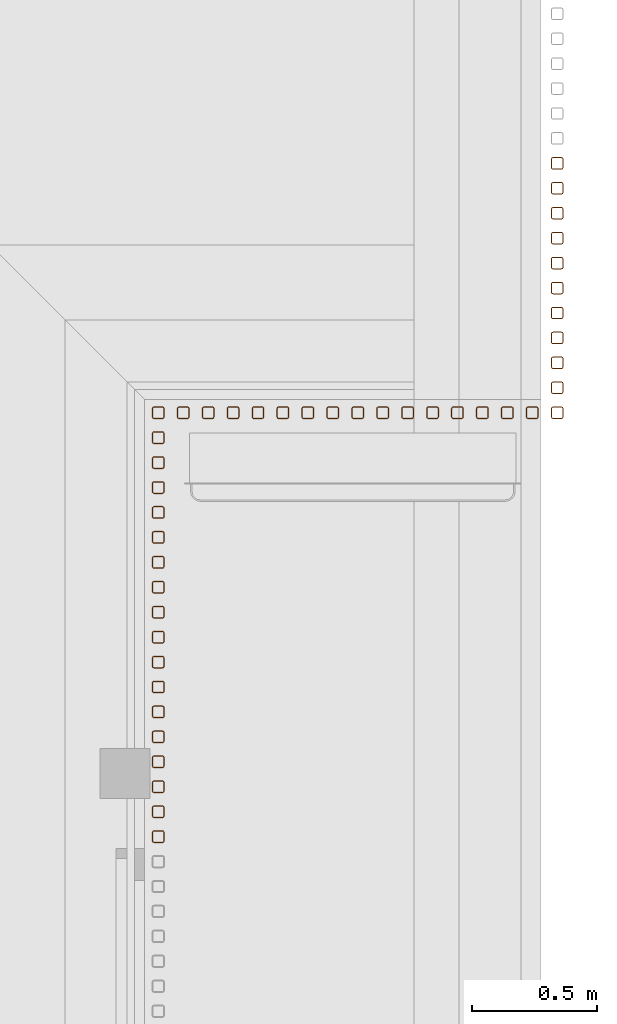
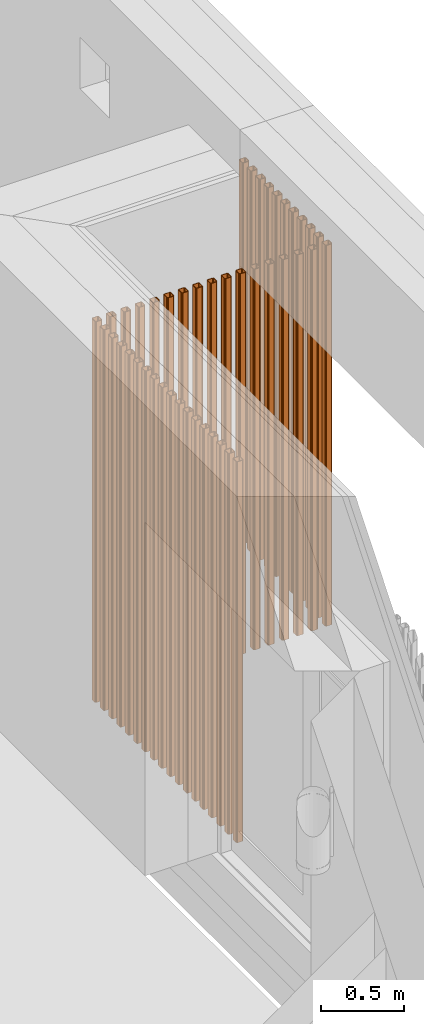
# One storey, part 69 of 112: 44 proxies.
"""IFC2X3 building model written with IfcOpenShell, lengths in millimetres."""

import ifcopenshell
import ifcopenshell.guid

model = None  # the IFC model being written
_history = None  # IfcOwnerHistory: only IFC2X3 demands one
_inside = {}  # id of a spatial element -> (the spatial element, [elements in it])
_under = {}  # id of a project, library or spatial element -> (it, [spatial elements below it])
_declared = {}  # id of a project -> (the project, [libraries it declares])
_typed = {}  # id of a type object -> (the type object, [elements of that type])
_made_of = {}  # id of a material, layer set ... -> (it, [elements and type objects made of it])


def new_model(schema):
    """Start an empty IFC model of exactly this schema.

    Asked for "IFC4X3", IfcOpenShell would pick the latest addendum, in which some entities
    have other attributes; the version numbers below select the first issue.
    IFC2X3 requires an IfcOwnerHistory on every rooted entity: one is made here for all.
    """
    global model, _history
    if schema == "IFC4X3":
        model = ifcopenshell.file(schema_version=(4, 3, 0, 0))
    else:
        model = ifcopenshell.file(schema=schema)
    _inside.clear()
    _under.clear()
    _declared.clear()
    _typed.clear()
    _made_of.clear()
    _history = None
    if model.schema == "IFC2X3":
        org = make("IfcOrganization", Name="unknown")
        user = make(
            "IfcPersonAndOrganization",
            ThePerson=make("IfcPerson", FamilyName="unknown"),
            TheOrganization=org,
        )
        app = make(
            "IfcApplication",
            ApplicationDeveloper=org,
            Version="unknown",
            ApplicationFullName="unknown",
            ApplicationIdentifier="unknown",
        )
        _history = make(
            "IfcOwnerHistory",
            OwningUser=user,
            OwningApplication=app,
            ChangeAction="ADDED",
            CreationDate=0,
        )
    return model


def make(cls, **values):
    """One entity of the class cls with the attributes given. An attribute that is None is left unset."""
    return model.create_entity(
        cls, **{name: value for name, value in values.items() if value is not None}
    )


def entity(cls, *values):
    """Any entity or typed value of the class cls, its attributes in the order of the schema. None: left unset."""
    e = model.create_entity(cls)
    for i, value in enumerate(values):
        if value is not None:
            e[i] = value
    return e


def rooted(cls, **values):
    """An entity with a GlobalId (a new one), such as an element, a storey or a relation."""
    return make(cls, GlobalId=ifcopenshell.guid.new(), OwnerHistory=_history, **values)


def si_unit(unit_type, name, prefix=None):
    """IfcSIUnit, for example si_unit("LENGTHUNIT", "METRE", prefix="MILLI")."""
    return make("IfcSIUnit", UnitType=unit_type, Prefix=prefix, Name=name)


def converted_unit(unit_type, name, factor, base, dimensions=None, offset=None):
    """IfcConversionBasedUnit, such as the inch: factor (a typed value) times the base unit."""
    return make(
        "IfcConversionBasedUnit"
        if offset is None
        else "IfcConversionBasedUnitWithOffset",
        ConversionOffset=offset,
        Dimensions=None
        if dimensions is None
        else entity("IfcDimensionalExponents", *dimensions),
        UnitType=unit_type,
        Name=name,
        ConversionFactor=make(
            "IfcMeasureWithUnit", ValueComponent=factor, UnitComponent=base
        ),
    )


def derived_unit(unit_type, elements):
    """IfcDerivedUnit: a product of units, each with its exponent."""
    return make(
        "IfcDerivedUnit",
        Elements=[
            make("IfcDerivedUnitElement", Unit=unit, Exponent=power)
            for unit, power in elements
        ],
        UnitType=unit_type,
    )


def money_unit(currency):
    """IfcMonetaryUnit."""
    return make("IfcMonetaryUnit", Currency=currency)


def assignment(units):
    """IfcUnitAssignment: the units of a project."""
    return None if units is None else make("IfcUnitAssignment", Units=units)


def point(xyz):
    """IfcCartesianPoint."""
    return None if xyz is None else make("IfcCartesianPoint", Coordinates=xyz)


def direction(xyz):
    """IfcDirection."""
    return None if xyz is None else make("IfcDirection", DirectionRatios=xyz)


def frame(location, z_axis=None, x_axis=None):
    """IfcAxis2Placement3D, a coordinate frame: its origin and axes. An axis left out is left unset."""
    return make(
        "IfcAxis2Placement3D",
        Location=point(location),
        Axis=direction(z_axis),
        RefDirection=direction(x_axis),
    )


def origin_with_axes():
    """The frame at (0, 0, 0) with the z axis (0, 0, 1) and the x axis (1, 0, 0) written out."""
    return frame((0.0, 0.0, 0.0), z_axis=(0.0, 0.0, 1.0), x_axis=(1.0, 0.0, 0.0))


def place(relative_to, where):
    """IfcLocalPlacement: puts the frame where relative to a parent placement (None: the world)."""
    return make(
        "IfcLocalPlacement", PlacementRelTo=relative_to, RelativePlacement=where
    )


def context(
    kind, dimensions, precision=None, world=None, true_north=None, identifier=None
):
    """IfcGeometricRepresentationContext, for example the 3D "Model" context."""
    return make(
        "IfcGeometricRepresentationContext",
        ContextIdentifier=identifier,
        ContextType=kind,
        CoordinateSpaceDimension=dimensions,
        Precision=precision,
        WorldCoordinateSystem=world,
        TrueNorth=true_north,
    )


def subcontext(parent, identifier, kind, view, scale=None):
    """IfcGeometricRepresentationSubContext, for example "Body" below "Model"."""
    return make(
        "IfcGeometricRepresentationSubContext",
        ContextIdentifier=identifier,
        ContextType=kind,
        ParentContext=parent,
        TargetScale=scale,
        TargetView=view,
    )


def project(units=None, contexts=None):
    """IfcProject with its units and contexts."""
    return rooted(
        "IfcProject",
        Name="project",
        RepresentationContexts=contexts,
        UnitsInContext=assignment(units),
    )


def spatial(cls, under=None, at=None, **own):
    """A site, building, storey or space (cls), placed at a placement, below another one or the project."""
    s = rooted(cls, ObjectPlacement=at, **own)
    if under is not None:
        _under.setdefault(under.id(), (under, []))[1].append(s)
    return s


def faces_of(points, faces, orient=None, outer=None):
    """IfcFace entities. A face is a list of loops; a loop is a list of indices into points, from 0.

    orient and outer hold one flag for each loop. By default every Orientation is true, the
    first loop of a face is its IfcFaceOuterBound and the others are IfcFaceBound.
    """
    made = []
    for i, loops in enumerate(faces):
        bounds = []
        for j, loop in enumerate(loops):
            is_outer = j == 0 if outer is None else outer[i][j]
            bounds.append(
                make(
                    "IfcFaceOuterBound" if is_outer else "IfcFaceBound",
                    Bound=make("IfcPolyLoop", Polygon=[points[k] for k in loop]),
                    Orientation=True if orient is None else orient[i][j],
                )
            )
        made.append(make("IfcFace", Bounds=bounds))
    return made


def faceted_brep(points, faces, orient=None, outer=None, voids=None):
    """IfcFacetedBrep: a solid bounded by flat faces; with voids (closed shells), ...WithVoids."""
    shared = [point(p) for p in points]
    hull = make("IfcClosedShell", CfsFaces=faces_of(shared, faces, orient, outer))
    if voids is None:
        return make("IfcFacetedBrep", Outer=hull)
    return make(
        "IfcFacetedBrepWithVoids",
        Outer=hull,
        Voids=[
            make(cls, CfsFaces=faces_of(shared, fs, o, b)) for cls, fs, o, b in voids
        ],
    )


def shape(context_of_items, identifier, shape_type, items):
    """IfcShapeRepresentation: the items that make up one representation, for example the "Body"."""
    return make(
        "IfcShapeRepresentation",
        ContextOfItems=context_of_items,
        RepresentationIdentifier=identifier,
        RepresentationType=shape_type,
        Items=items,
    )


def source(mapping_origin, context_of_items, identifier, shape_type, items):
    """IfcRepresentationMap: a shape defined once, which mapped items show again and again."""
    return make(
        "IfcRepresentationMap",
        MappingOrigin=mapping_origin,
        MappedRepresentation=shape(context_of_items, identifier, shape_type, items),
    )


def transform(
    local_origin,
    x_axis=None,
    y_axis=None,
    z_axis=None,
    scale=None,
    scale2=None,
    scale3=None,
    uniform=True,
):
    """IfcCartesianTransformationOperator3D, or its non-uniform kind. x_axis, y_axis, z_axis: its Axis1, 2, 3."""
    if uniform:
        return make(
            "IfcCartesianTransformationOperator3D",
            Axis1=direction(x_axis),
            Axis2=direction(y_axis),
            LocalOrigin=point(local_origin),
            Scale=scale,
            Axis3=direction(z_axis),
        )
    return make(
        "IfcCartesianTransformationOperator3DnonUniform",
        Axis1=direction(x_axis),
        Axis2=direction(y_axis),
        LocalOrigin=point(local_origin),
        Scale=scale,
        Axis3=direction(z_axis),
        Scale2=scale2,
        Scale3=scale3,
    )


def mapped(mapping_source, mapping_target):
    """IfcMappedItem: shows the shape of a source again, moved by a transform."""
    return make(
        "IfcMappedItem", MappingSource=mapping_source, MappingTarget=mapping_target
    )


def material(Name=None, Category=None):
    """IfcMaterial."""
    return make("IfcMaterial", Name=Name, Category=Category)


def made_of(thing, what):
    """Note that an element or type object is made of a material, layer set ...; save() writes the relation."""
    if what is not None:
        _made_of.setdefault(what.id(), (what, []))[1].append(thing)
    return thing


def type_object(cls, material=None, **own):
    """A type object (cls), such as IfcWallType, which elements share."""
    return made_of(rooted(cls, **own), material)


def element(
    cls,
    number,
    at=None,
    inside=None,
    cuts=None,
    type_object=None,
    material=None,
    context=None,
    identifier="Body",
    shape_type=None,
    held_by="IfcProductDefinitionShape",
    body=None,
    shapes=None,
    **own,
):
    """One element of the class cls, such as IfcWall. Its Tag is "e" and its number.

    at: its placement. inside: the storey or other place that contains it. cuts: it is an
    opening in that element (IfcRelVoidsElement). A single representation is given by context,
    identifier, shape_type and body (its items); several are given by shapes. held_by: the class
    of the entity that holds the representations. save() writes the other relations.
    """
    e = rooted(cls, Tag="e%d" % number, ObjectPlacement=at, **own)
    if body is not None:
        shapes = [shape(context, identifier, shape_type, body)]
    if shapes is not None:
        e.Representation = make(held_by, Representations=shapes)
    if inside is not None:
        _inside.setdefault(inside.id(), (inside, []))[1].append(e)
    if cuts is not None:
        rooted(
            "IfcRelVoidsElement", RelatingBuildingElement=cuts, RelatedOpeningElement=e
        )
    if type_object is not None:
        _typed.setdefault(type_object.id(), (type_object, []))[1].append(e)
    return made_of(e, material)


def aggregate(whole, parts):
    """IfcRelAggregates: a whole, such as a stair, and the parts it consists of."""
    return rooted("IfcRelAggregates", RelatingObject=whole, RelatedObjects=parts)


def save(model, path):
    """Write the relations noted so far, then the file.

    IfcRelAggregates (storeys below a building ...), IfcRelContainedInSpatialStructure (elements
    in a storey), IfcRelDefinesByType, IfcRelAssociatesMaterial and IfcRelDeclares: one each for
    every whole, place, type object, material and project.
    """
    for whole, parts in _under.values():
        aggregate(whole, parts)
    for where, things in _inside.values():
        rooted(
            "IfcRelContainedInSpatialStructure",
            RelatedElements=things,
            RelatingStructure=where,
        )
    for kind, things in _typed.values():
        rooted("IfcRelDefinesByType", RelatedObjects=things, RelatingType=kind)
    for what, things in _made_of.values():
        rooted("IfcRelAssociatesMaterial", RelatedObjects=things, RelatingMaterial=what)
    for by, libraries in _declared.values():
        rooted("IfcRelDeclares", RelatingContext=by, RelatedDefinitions=libraries)
    model.write(path)


model = new_model("IFC2X3")

# Units and contexts
model_context = context("Model", 3, precision=0.01, world=origin_with_axes(), true_north=direction((0.0, 1.0)))
body_context = subcontext(model_context, "Body", "Model", "MODEL_VIEW")
ifc_project = project(units=[si_unit("LENGTHUNIT", "METRE", prefix="MILLI"), si_unit("AREAUNIT", "SQUARE_METRE"), si_unit("VOLUMEUNIT", "CUBIC_METRE"), converted_unit("PLANEANGLEUNIT", "DEGREE", entity("IfcPlaneAngleMeasure", 0.0174532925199), si_unit("PLANEANGLEUNIT", "RADIAN"), dimensions=[0, 0, 0, 0, 0, 0, 0]), si_unit("SOLIDANGLEUNIT", "STERADIAN"), money_unit("EUR"), converted_unit("TIMEUNIT", "Year", entity("IfcTimeMeasure", 31556926.0), si_unit("TIMEUNIT", "SECOND"), dimensions=[0, 0, 1, 0, 0, 0, 0]), si_unit("MASSUNIT", "GRAM", prefix="KILO"), si_unit("THERMODYNAMICTEMPERATUREUNIT", "DEGREE_CELSIUS"), si_unit("LUMINOUSINTENSITYUNIT", "LUMEN"), si_unit("ENERGYUNIT", "JOULE", prefix="MEGA"), derived_unit("THERMALCONDUCTANCEUNIT", [(si_unit("POWERUNIT", "WATT"), 1), (si_unit("LENGTHUNIT", "METRE"), -1), (si_unit("THERMODYNAMICTEMPERATUREUNIT", "KELVIN"), -1)]), derived_unit("SPECIFICHEATCAPACITYUNIT", [(si_unit("ENERGYUNIT", "JOULE"), 1), (si_unit("MASSUNIT", "GRAM", prefix="KILO"), -1), (si_unit("THERMODYNAMICTEMPERATUREUNIT", "KELVIN"), -1)]), derived_unit("MASSDENSITYUNIT", [(si_unit("MASSUNIT", "GRAM", prefix="KILO"), 1), (si_unit("VOLUMEUNIT", "CUBIC_METRE"), -1)])], contexts=[model_context])

# Site, building, storey
site_placement = place(None, origin_with_axes())
site = spatial("IfcSite", under=ifc_project, at=site_placement, Name="Politse- ja Piirivalveameti ning Päästeameti ühishoone", CompositionType="ELEMENT")
building_placement = place(site_placement, origin_with_axes())
building = spatial("IfcBuilding", under=site, at=building_placement, Name="Politse- ja Piirivalveameti ning Päästeameti ühishoone", CompositionType="ELEMENT")
storey_placement = place(building_placement, origin_with_axes())
storey = spatial("IfcBuildingStorey", under=building, at=storey_placement, Name="Esimene korrus", CompositionType="ELEMENT", Elevation=0.0)

# Proxies
ifc_material = material(Name="ET-05_Teras")
building_element_proxy_type = type_object("IfcBuildingElementProxyType", Name="SHS Cold-Formed Column 23", PredefinedType="NOTDEFINED")
shared_shape = source(origin_with_axes(), body_context, "Body", "Brep", [
    faceted_brep([(-17.0, -25.0, 0.0), (17.0, -25.0, 0.0), (17.0, -25.0, 2800.0), (-17.0, -25.0, 2800.0), (-22.6568542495, -22.6568542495, 0.0), (-25.0, -17.0, 0.0), (-25.0, 17.0, 0.0), (-22.6568542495, 22.6568542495, 0.0), (-17.0, 25.0, 0.0), (17.0, 25.0, 0.0), (22.6568542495, 22.6568542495, 0.0), (25.0, 17.0, 0.0), (25.0, -17.0, 0.0), (22.6568542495, -22.6568542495, 0.0), (-17.0, -21.0, 0.0), (17.0, -21.0, 0.0), (19.8284271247, -19.8284271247, 0.0), (21.0, -17.0, 0.0), (21.0, 17.0, 0.0), (19.8284271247, 19.8284271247, 0.0), (17.0, 21.0, 0.0), (-17.0, 21.0, 0.0), (-19.8284271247, 19.8284271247, 0.0), (-21.0, 17.0, 0.0), (-21.0, -17.0, 0.0), (-19.8284271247, -19.8284271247, 0.0), (22.6568542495, -22.6568542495, 2800.0), (25.0, -17.0, 2800.0), (25.0, 17.0, 2800.0), (22.6568542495, 22.6568542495, 2800.0), (17.0, 25.0, 2800.0), (-17.0, 25.0, 2800.0), (-22.6568542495, 22.6568542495, 2800.0), (-25.0, 17.0, 2800.0), (-25.0, -17.0, 2800.0), (-22.6568542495, -22.6568542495, 2800.0), (-17.0, -21.0, 2800.0), (-19.8284271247, -19.8284271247, 2800.0), (-21.0, -17.0, 2800.0), (-21.0, 17.0, 2800.0), (-19.8284271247, 19.8284271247, 2800.0), (-17.0, 21.0, 2800.0), (17.0, 21.0, 2800.0), (19.8284271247, 19.8284271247, 2800.0), (21.0, 17.0, 2800.0), (21.0, -17.0, 2800.0), (19.8284271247, -19.8284271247, 2800.0), (17.0, -21.0, 2800.0)], [[[0, 1, 2, 3]], [[0, 4, 5, 6, 7, 8, 9, 10, 11, 12, 13, 1], [14, 15, 16, 17, 18, 19, 20, 21, 22, 23, 24, 25]], [[1, 13, 26, 2]], [[3, 2, 26, 27, 28, 29, 30, 31, 32, 33, 34, 35], [36, 37, 38, 39, 40, 41, 42, 43, 44, 45, 46, 47]], [[4, 0, 3, 35]], [[5, 4, 35, 34]], [[6, 5, 34, 33]], [[7, 6, 33, 32]], [[8, 7, 32, 31]], [[9, 8, 31, 30]], [[10, 9, 30, 29]], [[11, 10, 29, 28]], [[12, 11, 28, 27]], [[13, 12, 27, 26]], [[15, 14, 36, 47]], [[16, 15, 47, 46]], [[17, 16, 46, 45]], [[18, 17, 45, 44]], [[19, 18, 44, 43]], [[20, 19, 43, 42]], [[21, 20, 42, 41]], [[22, 21, 41, 40]], [[23, 22, 40, 39]], [[24, 23, 39, 38]], [[25, 24, 38, 37]], [[14, 25, 37, 36]]]),
])
for number, where, z_axis, x_axis in (
    (1, (68635.2095212, 15750.0702441, 0.0), (0.0, 0.0, 1.0), (0.0, -1.0, 0.0)),
    (2, (68635.2095212, 15650.0702441, 0.0), (0.0, 0.0, 1.0), (1.0, 0.0, 0.0)),
    (3, (68635.2095212, 15550.0702441, 0.0), (0.0, 0.0, 1.0), (1.0, 0.0, 0.0)),
    (4, (68635.2095212, 15450.0702441, 0.0), (0.0, 0.0, 1.0), (1.0, 0.0, 0.0)),
    (5, (68635.2095212, 15350.0702441, 0.0), (0.0, 0.0, 1.0), (1.0, 0.0, 0.0)),
    (6, (68635.2095212, 15250.0702441, 0.0), (0.0, 0.0, 1.0), (1.0, 0.0, 0.0)),
    (7, (68635.2095212, 15150.0702441, 0.0), (0.0, 0.0, 1.0), (1.0, 0.0, 0.0)),
    (8, (68635.2095212, 15050.0702441, 0.0), (0.0, 0.0, 1.0), (1.0, 0.0, 0.0)),
    (9, (68635.2095212, 14950.0702441, 0.0), (0.0, 0.0, 1.0), (1.0, 0.0, 0.0)),
    (10, (68635.2095212, 14850.0702441, 0.0), (0.0, 0.0, 1.0), (1.0, 0.0, 0.0)),
    (11, (68635.2095212, 14750.0702441, 0.0), (0.0, 0.0, 1.0), (1.0, 0.0, 0.0)),
    (12, (68635.2095212, 14650.0702441, 0.0), (0.0, 0.0, 1.0), (1.0, 0.0, 0.0)),
    (13, (68635.2095212, 14550.0702441, 0.0), (0.0, 0.0, 1.0), (1.0, 0.0, 0.0)),
    (14, (68635.2095212, 14450.0702441, 0.0), (0.0, 0.0, 1.0), (1.0, 0.0, 0.0)),
    (15, (68635.2095212, 14350.0702441, 0.0), (0.0, 0.0, 1.0), (1.0, 0.0, 0.0)),
    (16, (68635.2095212, 14250.0702441, 0.0), (0.0, 0.0, 1.0), (1.0, 0.0, 0.0)),
    (17, (68635.2095212, 14150.0702441, 0.0), (0.0, 0.0, 1.0), (1.0, 0.0, 0.0)),
    (18, (68635.2095212, 14050.0702441, 0.0), (0.0, 0.0, 1.0), (1.0, 0.0, 0.0)),
    (19, (70135.2095212, 15750.0702441, 0.0), (0.0, 0.0, 1.0), (0.0, -1.0, 0.0)),
    (20, (70035.2095212, 15750.0702441, 0.0), (0.0, 0.0, 1.0), (0.0, -1.0, 0.0)),
    (21, (69935.2095212, 15750.0702441, 0.0), (0.0, 0.0, 1.0), (0.0, -1.0, 0.0)),
    (22, (69835.2095212, 15750.0702441, 0.0), (0.0, 0.0, 1.0), (0.0, -1.0, 0.0)),
    (23, (69735.2095212, 15750.0702441, 0.0), (0.0, 0.0, 1.0), (0.0, -1.0, 0.0)),
    (24, (69635.2095212, 15750.0702441, 0.0), (0.0, 0.0, 1.0), (0.0, -1.0, 0.0)),
    (25, (69535.2095212, 15750.0702441, 0.0), (0.0, 0.0, 1.0), (0.0, -1.0, 0.0)),
    (26, (69435.2095212, 15750.0702441, 0.0), (0.0, 0.0, 1.0), (0.0, -1.0, 0.0)),
    (27, (69335.2095212, 15750.0702441, 0.0), (0.0, 0.0, 1.0), (0.0, -1.0, 0.0)),
    (28, (69235.2095212, 15750.0702441, 0.0), (0.0, 0.0, 1.0), (0.0, -1.0, 0.0)),
    (29, (69135.2095212, 15750.0702441, 0.0), (0.0, 0.0, 1.0), (0.0, -1.0, 0.0)),
    (30, (69035.2095212, 15750.0702441, 0.0), (0.0, 0.0, 1.0), (0.0, -1.0, 0.0)),
    (31, (68935.2095212, 15750.0702441, 0.0), (0.0, 0.0, 1.0), (0.0, -1.0, 0.0)),
    (32, (68835.2095212, 15750.0702441, 0.0), (0.0, 0.0, 1.0), (0.0, -1.0, 0.0)),
    (33, (68735.2095212, 15750.0702441, 0.0), (0.0, 0.0, 1.0), (0.0, -1.0, 0.0)),
    (34, (70235.2095212, 15950.0702441, 0.0), (0.0, 0.0, 1.0), (1.0, 0.0, 0.0)),
    (35, (70235.2095212, 15850.0702441, 0.0), (0.0, 0.0, 1.0), (1.0, 0.0, 0.0)),
    (36, (70235.2095212, 16750.0702441, 0.0), (0.0, 0.0, 1.0), (1.0, 0.0, 0.0)),
    (37, (70235.2095212, 16650.0702441, 0.0), (0.0, 0.0, 1.0), (1.0, 0.0, 0.0)),
    (38, (70235.2095212, 16550.0702441, 0.0), (0.0, 0.0, 1.0), (1.0, 0.0, 0.0)),
    (39, (70235.2095212, 16450.0702441, 0.0), (0.0, 0.0, 1.0), (1.0, 0.0, 0.0)),
    (40, (70235.2095212, 16350.0702441, 0.0), (0.0, 0.0, 1.0), (1.0, 0.0, 0.0)),
    (41, (70235.2095212, 16250.0702441, 0.0), (0.0, 0.0, 1.0), (1.0, 0.0, 0.0)),
    (42, (70235.2095212, 16150.0702441, 0.0), (0.0, 0.0, 1.0), (1.0, 0.0, 0.0)),
    (43, (70235.2095212, 16050.0702441, 0.0), (0.0, 0.0, 1.0), (1.0, 0.0, 0.0)),
    (44, (70235.2095212, 15750.0702441, 0.0), (0.0, 0.0, 1.0), (1.0, 0.0, 0.0)),
):
    element("IfcBuildingElementProxy", number, at=place(storey_placement, frame(where, z_axis=z_axis, x_axis=x_axis)), inside=storey, type_object=building_element_proxy_type, material=ifc_material, Name="Fassaadiribid", context=body_context, shape_type="MappedRepresentation", body=[
        mapped(shared_shape, transform((0.0, 0.0, 0.0))),
    ])

save(model, "model.ifc")
